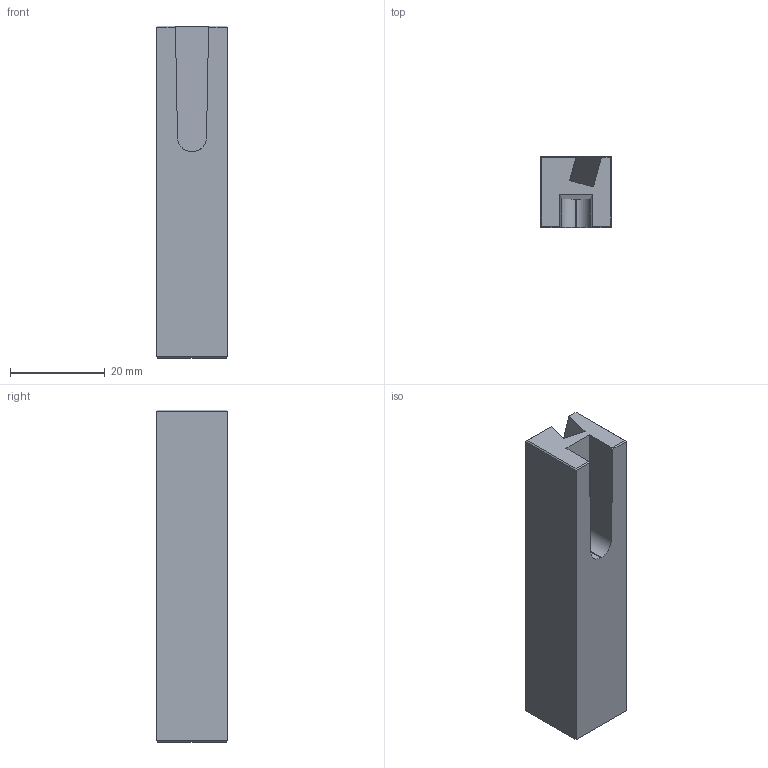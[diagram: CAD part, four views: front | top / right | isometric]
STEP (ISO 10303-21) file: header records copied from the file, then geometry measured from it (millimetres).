
FILE_DESCRIPTION (( 'STEP AP203' ), '1' );
FILE_NAME ('SQ-P15.70.1-4.STEP', '2021-07-29T12:35:31', ( '' ), ( '' ), 'SwSTEP 2.0', 'SolidWorks 2014', '' );
FILE_SCHEMA (( 'CONFIG_CONTROL_DESIGN' ));
Length unit declared in the file: millimetre
Products named in the file (1): SQ-P15.70.1-4
Bounding box: 15 x 15 x 70 mm (x, y, z)
Volume: 12705.6 mm3; surface area: 5991.9 mm2
Topology: 1 solids, 1 shells, 32 faces, 80 edges, 49 vertices
Faces by surface type: plane 24, cylinder 6, cone 2
Entity records: 999 total; most frequent: CARTESIAN_POINT 184, ORIENTED_EDGE 156, DIRECTION 144, EDGE_CURVE 78, LINE 62, VECTOR 62, VERTEX_POINT 49, AXIS2_PLACEMENT_3D 41
